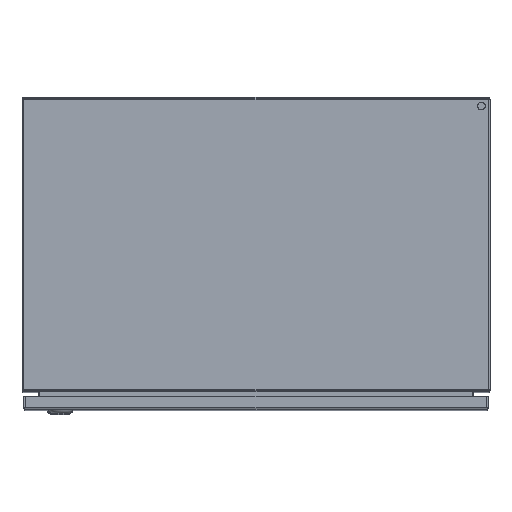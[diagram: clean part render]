
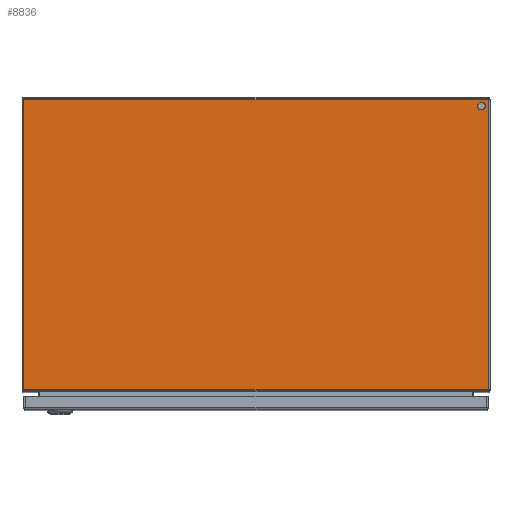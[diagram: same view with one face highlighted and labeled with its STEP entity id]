
A CAD part, top view. The second image highlights one B-rep face of the part: STEP entity #8836.
In plain terms, the highlighted planar face has unit normal (0, 0, 1).
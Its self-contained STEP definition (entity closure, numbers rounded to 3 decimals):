
#509=LINE('',#13898,#1029);
#510=LINE('',#13901,#1030);
#511=LINE('',#13903,#1031);
#512=LINE('',#13905,#1032);
#1029=VECTOR('',#10904,1000.);
#1030=VECTOR('',#10905,1000.);
#1031=VECTOR('',#10906,1000.);
#1032=VECTOR('',#10907,1000.);
#1634=ORIENTED_EDGE('',*,*,#3951,.F.);
#1635=ORIENTED_EDGE('',*,*,#3952,.T.);
#1636=ORIENTED_EDGE('',*,*,#3953,.F.);
#1637=ORIENTED_EDGE('',*,*,#3954,.F.);
#1638=ORIENTED_EDGE('',*,*,#3955,.T.);
#3951=EDGE_CURVE('',#5102,#5102,#5910,.T.);
#3952=EDGE_CURVE('',#5103,#5104,#509,.T.);
#3953=EDGE_CURVE('',#5105,#5104,#510,.T.);
#3954=EDGE_CURVE('',#5106,#5105,#511,.T.);
#3955=EDGE_CURVE('',#5106,#5103,#512,.T.);
#5102=VERTEX_POINT('',#13897);
#5103=VERTEX_POINT('',#13899);
#5104=VERTEX_POINT('',#13900);
#5105=VERTEX_POINT('',#13902);
#5106=VERTEX_POINT('',#13904);
#5910=CIRCLE('',#9521,5.);
#6523=EDGE_LOOP('',(#1634));
#6524=EDGE_LOOP('',(#1635,#1636,#1637,#1638));
#7595=FACE_BOUND('',#6523,.T.);
#7596=FACE_BOUND('',#6524,.T.);
#8618=PLANE('',#9520);
#8836=ADVANCED_FACE('',(#7595,#7596),#8618,.T.);
#9520=AXIS2_PLACEMENT_3D('',#13895,#10900,#10901);
#9521=AXIS2_PLACEMENT_3D('',#13896,#10902,#10903);
#10900=DIRECTION('',(0.,0.,1.));
#10901=DIRECTION('',(1.,0.,0.));
#10902=DIRECTION('',(0.,0.,1.));
#10903=DIRECTION('',(1.,0.,0.));
#10904=DIRECTION('',(-1.,0.,0.));
#10905=DIRECTION('',(0.,1.,0.));
#10906=DIRECTION('',(-1.,0.,0.));
#10907=DIRECTION('',(0.,1.,0.));
#13895=CARTESIAN_POINT('',(-297.5,-377.,1000.));
#13896=CARTESIAN_POINT('',(289.,-11.,1000.));
#13897=CARTESIAN_POINT('',(294.,-11.,1000.));
#13898=CARTESIAN_POINT('',(400.,-2.5,1000.));
#13899=CARTESIAN_POINT('',(297.5,-2.5,1000.));
#13900=CARTESIAN_POINT('',(-297.5,-2.5,1000.));
#13901=CARTESIAN_POINT('',(-297.5,-377.,1000.));
#13902=CARTESIAN_POINT('',(-297.5,-374.5,1000.));
#13903=CARTESIAN_POINT('',(400.,-374.5,1000.));
#13904=CARTESIAN_POINT('',(297.5,-374.5,1000.));
#13905=CARTESIAN_POINT('',(297.5,-377.,1000.));
